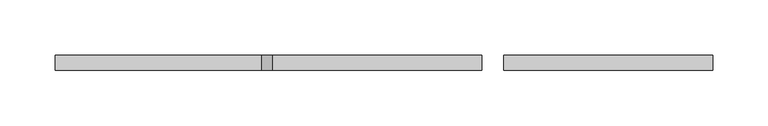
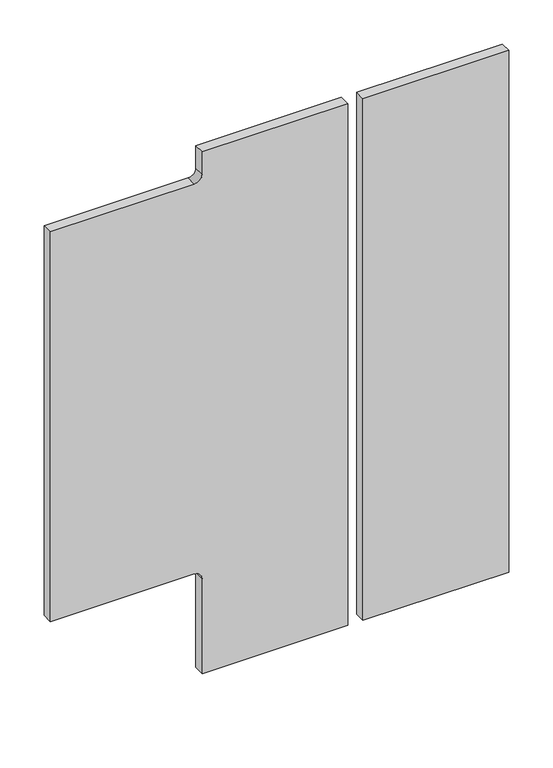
"""IFC4 building model written with IfcOpenShell, lengths in millimetres: fastener geometry, 主梁与次梁铰接节点1 : 主梁与次梁铰接节点1."""

from ifc_helpers import new_model, si_unit, point, frame, frame_2d, origin, place, context, project, spatial, polyline, circle_curve, trimmed, segment, composite_curve, outline, extrude, source, transform, mapped, element, save


def fastener_4c0c14ea(model_context):
    return source(origin(), model_context, "Body", "SweptSolid", [
        extrude(outline(polyline([(-289.5250948, -6200.6516809), (-479.5250948, -6200.6516809), (-479.5250948, -6186.6516809), (-289.5250948, -6186.6516809), (-289.5250948, -6200.6516809)])), frame((0.0, 0.0, 2320.0), z_axis=(0.0, 0.0, 1.0), x_axis=(1.0, 0.0, 0.0)), (0.0, 0.0, 1.0), 720.0),
        extrude(outline(composite_curve([segment(polyline([(2999.0, -887.5250948), (2461.0, -887.5250948), (2461.0, -699.5250948)]), True, "CONTINUOUS"), segment(trimmed(circle_curve(frame_2d((2451.0, -699.5250948)), 10.0), [point((2461.0, -699.5250948))], [point((2451.0, -689.5250948))], True, "CARTESIAN"), True, "CONTINUOUS"), segment(polyline([(2451.0, -689.5250948), (2320.0, -689.5250948), (2320.0, -499.5250948), (3040.0, -499.5250948), (3040.0, -689.5250948), (3009.0, -689.5250948)]), True, "CONTINUOUS"), segment(trimmed(circle_curve(frame_2d((3009.0, -699.5250948)), 10.0), [point((3009.0, -689.5250948))], [point((2999.0, -699.5250948))], True, "CARTESIAN"), True, "CONTINUOUS"), segment(polyline([(2999.0, -699.5250948), (2999.0, -887.5250948)]), True, "CONTINUOUS")], self_intersect=False)), frame((0.0, -6200.6516809, 0.0), z_axis=(0.0, 1.0, 0.0), x_axis=(0.0, 0.0, 1.0)), (0.0, 0.0, 1.0), 14.0),
    ])


if __name__ == "__main__":
    model = new_model("IFC4")
    model_context = context("Model", 3, world=origin())
    ifc_project = project(units=[si_unit("LENGTHUNIT", "METRE", prefix="MILLI")], contexts=[model_context])
    site = spatial("IfcSite", under=ifc_project)
    building = spatial("IfcBuilding", under=site)
    placement = place(None, origin())
    fastener_shape = fastener_4c0c14ea(model_context)
    element("IfcFastener", 1, ObjectType="主梁与次梁铰接节点1 : 主梁与次梁铰接节点1", at=placement, inside=building, context=model_context, shape_type="MappedRepresentation", body=[
        mapped(fastener_shape, transform((0.0, 0.0, 0.0), x_axis=(1.0, 0.0, 0.0), y_axis=(0.0, 1.0, 0.0), z_axis=(0.0, 0.0, 1.0))),
    ])
    save(model, "model.ifc")
